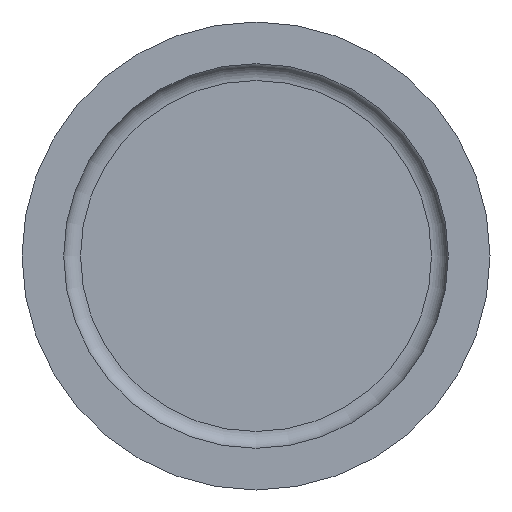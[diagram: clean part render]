
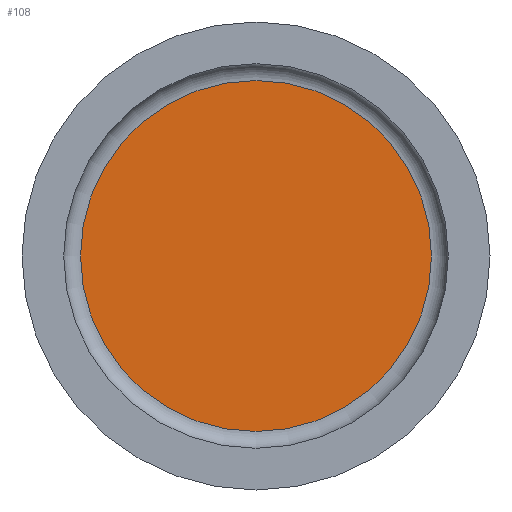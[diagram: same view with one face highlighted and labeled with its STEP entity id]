
A CAD part, left-side view. The second image highlights one B-rep face of the part: STEP entity #108.
In plain terms, the highlighted planar face has unit normal (-1, 0, 0).
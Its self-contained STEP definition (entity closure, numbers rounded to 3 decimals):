
#15=PLANE($,#125);
#31=FACE_OUTER_BOUND($,#44,.T.);
#44=EDGE_LOOP($,(#84));
#56=CIRCLE($,#126,12.);
#64=VERTEX_POINT($,#185);
#72=EDGE_CURVE($,#64,#64,#56,.T.);
#84=ORIENTED_EDGE($,*,*,#72,.F.);
#108=ADVANCED_FACE($,(#31),#15,.T.);
#125=AXIS2_PLACEMENT_3D($,#184,#154,#155);
#126=AXIS2_PLACEMENT_3D($,#186,#156,#157);
#154=DIRECTION('center_axis',(-1.,0.,0.));
#155=DIRECTION('ref_axis',(0.,0.,1.));
#156=DIRECTION('center_axis',(1.,0.,0.));
#157=DIRECTION('ref_axis',(0.,0.,-1.));
#184=CARTESIAN_POINT('Origin',(5.15,12.,0.));
#185=CARTESIAN_POINT('',(5.15,12.,0.));
#186=CARTESIAN_POINT('Origin',(5.15,0.,0.));
